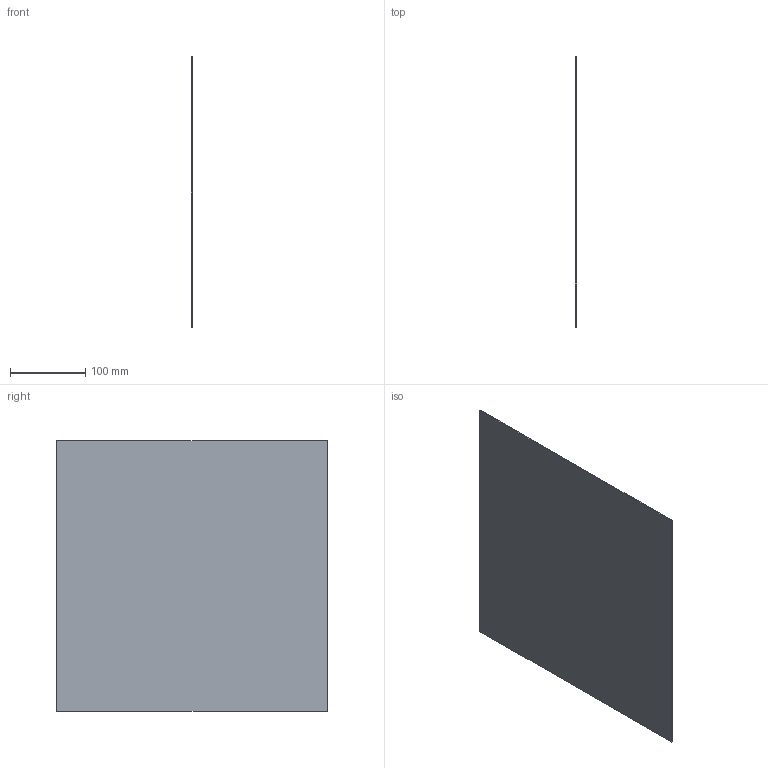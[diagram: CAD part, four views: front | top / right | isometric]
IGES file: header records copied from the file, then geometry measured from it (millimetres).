
Start section: START RECORD GO HERE.
Global section: file name: 20M_AIP.igs; native system: IBM CATIA IGES - CATIA Version 5 Release 19 ; preprocessor: CATIA Version 5 Release 19 ; author: alexb; organization: LAPTOP-PR6NE7IP; date: 20191218.150904; units: millimetre
Bounding box: 1.5 x 360 x 360 mm (x, y, z)
Surface area: 261360 mm2 (no closed solid volume)
Topology: 0 solids, 0 shells, 6 faces, 24 edges, 24 vertices
Faces by surface type: plane 6
